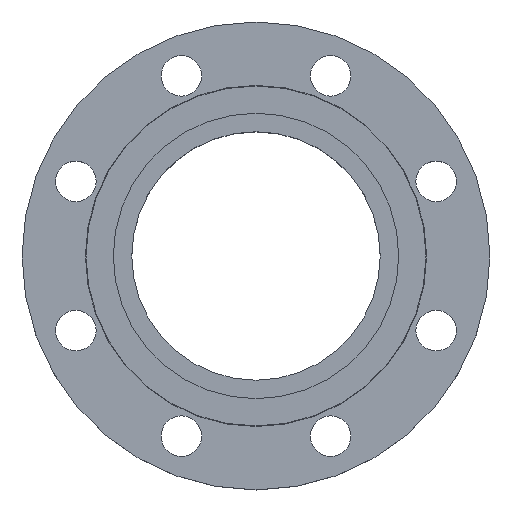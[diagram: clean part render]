
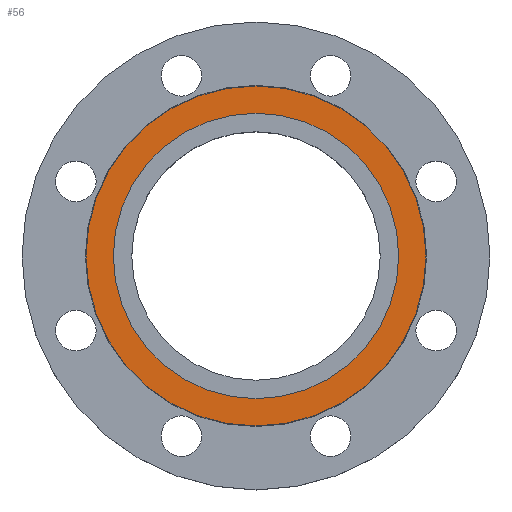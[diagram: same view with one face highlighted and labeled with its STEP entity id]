
A CAD part, top view. The second image highlights one B-rep face of the part: STEP entity #56.
In plain terms, the highlighted planar face has unit normal (0, 0, 1).
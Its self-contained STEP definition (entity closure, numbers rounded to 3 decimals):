
#10 = ORIENTED_EDGE ( 'NONE', *, *, #665, .F. ) ;
#11 = ORIENTED_EDGE ( 'NONE', *, *, #321, .T. ) ;
#24 = AXIS2_PLACEMENT_3D ( 'NONE', #941, #947, #990 ) ;
#29 = ORIENTED_EDGE ( 'NONE', *, *, #216, .T. ) ;
#56 = ADVANCED_FACE ( 'NONE', ( #573, #670 ), #936, .T. ) ;
#62 = CIRCLE ( 'NONE', #356, 91.5 ) ;
#117 = CIRCLE ( 'NONE', #140, 91.5 ) ;
#140 = AXIS2_PLACEMENT_3D ( 'NONE', #1078, #334, #733 ) ;
#155 = CARTESIAN_POINT ( 'NONE',  ( 0., 0., 0. ) ) ;
#216 = EDGE_CURVE ( 'NONE', #1167, #254, #62, .T. ) ;
#239 = AXIS2_PLACEMENT_3D ( 'NONE', #155, #644, #923 ) ;
#241 = CARTESIAN_POINT ( 'NONE',  ( 91.5, 0., 0. ) ) ;
#254 = VERTEX_POINT ( 'NONE', #725 ) ;
#264 = VERTEX_POINT ( 'NONE', #580 ) ;
#314 = DIRECTION ( 'NONE',  ( 0., 0., -1. ) ) ;
#321 = EDGE_CURVE ( 'NONE', #254, #1167, #117, .T. ) ;
#334 = DIRECTION ( 'NONE',  ( 0., 0., -1. ) ) ;
#356 = AXIS2_PLACEMENT_3D ( 'NONE', #1062, #314, #721 ) ;
#437 = EDGE_LOOP ( 'NONE', ( #11, #29 ) ) ;
#442 = CIRCLE ( 'NONE', #239, 109. ) ;
#470 = EDGE_LOOP ( 'NONE', ( #805, #10 ) ) ;
#508 = CARTESIAN_POINT ( 'NONE',  ( 0., 0., 0. ) ) ;
#513 = AXIS2_PLACEMENT_3D ( 'NONE', #508, #822, #1098 ) ;
#569 = VERTEX_POINT ( 'NONE', #838 ) ;
#573 = FACE_OUTER_BOUND ( 'NONE', #470, .T. ) ;
#580 = CARTESIAN_POINT ( 'NONE',  ( 109., 0., 0. ) ) ;
#644 = DIRECTION ( 'NONE',  ( 0., 0., -1. ) ) ;
#665 = EDGE_CURVE ( 'NONE', #264, #569, #442, .T. ) ;
#670 = FACE_BOUND ( 'NONE', #437, .T. ) ;
#721 = DIRECTION ( 'NONE',  ( -1., 0., 0. ) ) ;
#725 = CARTESIAN_POINT ( 'NONE',  ( -91.5, 0., 0. ) ) ;
#733 = DIRECTION ( 'NONE',  ( -1., 0., 0. ) ) ;
#805 = ORIENTED_EDGE ( 'NONE', *, *, #1182, .F. ) ;
#822 = DIRECTION ( 'NONE',  ( 0., 0., -1. ) ) ;
#838 = CARTESIAN_POINT ( 'NONE',  ( -109., 0., 0. ) ) ;
#923 = DIRECTION ( 'NONE',  ( -1., 0., 0. ) ) ;
#936 = PLANE ( 'NONE',  #24 ) ;
#941 = CARTESIAN_POINT ( 'NONE',  ( 0., 0., 0. ) ) ;
#942 = CIRCLE ( 'NONE', #513, 109. ) ;
#947 = DIRECTION ( 'NONE',  ( 0., 0., 1. ) ) ;
#990 = DIRECTION ( 'NONE',  ( 1., 0., 0. ) ) ;
#1062 = CARTESIAN_POINT ( 'NONE',  ( 0., 0., 0. ) ) ;
#1078 = CARTESIAN_POINT ( 'NONE',  ( 0., 0., 0. ) ) ;
#1098 = DIRECTION ( 'NONE',  ( -1., 0., 0. ) ) ;
#1167 = VERTEX_POINT ( 'NONE', #241 ) ;
#1182 = EDGE_CURVE ( 'NONE', #569, #264, #942, .T. ) ;
